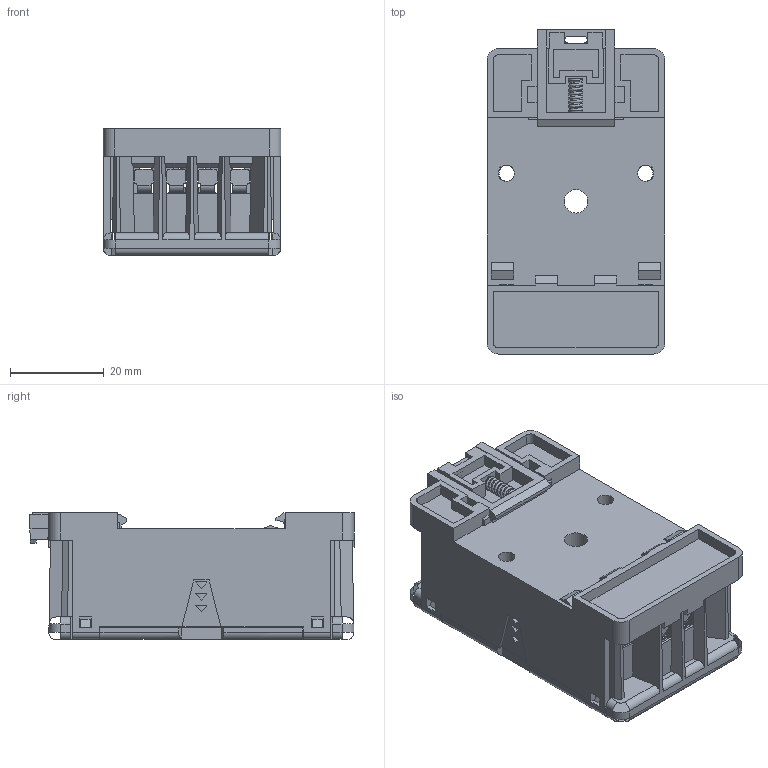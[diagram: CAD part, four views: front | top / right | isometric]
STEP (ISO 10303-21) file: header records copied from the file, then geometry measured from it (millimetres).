
FILE_DESCRIPTION((''),'2; 1');
FILE_NAME('','2026-03-27T11:08:28',(''),(''),'CST STEP Exporter V1.0','Unknown','');
FILE_SCHEMA(('CONFIG_CONTROL_DESIGN'));
Length unit declared in the file: metre
Assembly tree (72 placements, depth 2):
  (unnamed)
    (unnamed)
    (unnamed)
    (unnamed)
    (unnamed)
    (unnamed)
    (unnamed)
    (unnamed)
    (unnamed)
    (unnamed)
    (unnamed)
    (unnamed)
    (unnamed)
    (unnamed)
    (unnamed)
    (unnamed)
    (unnamed)
    (unnamed)
    (unnamed)
    (unnamed)
    (unnamed)
    (unnamed)
    (unnamed)
    (unnamed)
    (unnamed)
    (unnamed)
    (unnamed)
    (unnamed)
    (unnamed)
    (unnamed)
    (unnamed)
    (unnamed)
    (unnamed)
    (unnamed)
    (unnamed)
    (unnamed)
    (unnamed)
    (unnamed)
    (unnamed)
    (unnamed)
    (unnamed)
    (unnamed)
    (unnamed)
    (unnamed)
    (unnamed)
    (unnamed)
    (unnamed)
    (unnamed)
    (unnamed)
    (unnamed)
    (unnamed)
    (unnamed)
    (unnamed)
    (unnamed)
    (unnamed)
    (unnamed)
    (unnamed)
    (unnamed)
    (unnamed)
    (unnamed)
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Bounding box: 38 x 69.2 x 27.1 mm (x, y, z)
Surface area: 40906.8 mm2 (no closed solid volume)
Topology: 0 solids, 72 shells, 567 faces, 2288 edges, 1772 vertices
Faces by surface type: plane 439, cylinder 91, torus 20, cone 16, bspline 1
Full cylindrical faces by diameter (mm): 2 x1, 3 x8, 3.4 x2, 3.5 x2, 4.4 x8, 5 x1, 5.5 x8
Entity records: 29684 total; most frequent: CARTESIAN_POINT 5748, DIRECTION 3708, ORIENTED_EDGE 3223, EDGE_CURVE 2219, VERTEX_POINT 1743, VECTOR 1704, LINE 1704, AXIS2_PLACEMENT_3D 1002
